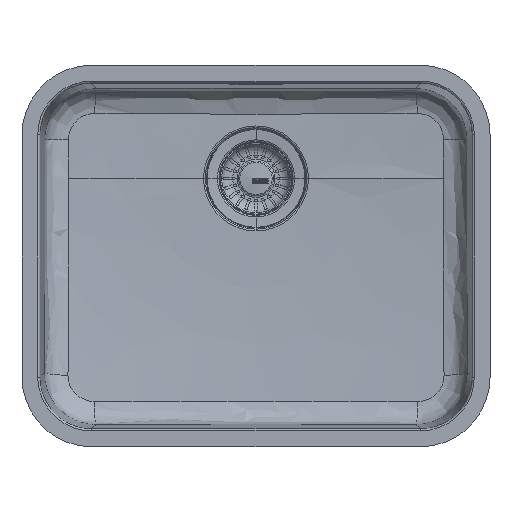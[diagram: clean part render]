
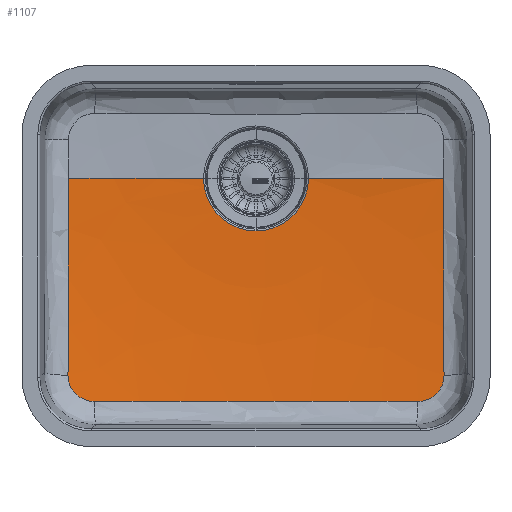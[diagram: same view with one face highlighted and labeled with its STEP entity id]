
A CAD part, top view. The second image highlights one B-rep face of the part: STEP entity #1107.
In plain terms, the highlighted free-form (B-spline) face has degree [2, 2] with [3, 5] control points.
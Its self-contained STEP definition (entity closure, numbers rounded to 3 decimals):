
#63=(
BOUNDED_CURVE()
B_SPLINE_CURVE(2,(#42409,#42410,#42411),.UNSPECIFIED.,.F.,.F.)
B_SPLINE_CURVE_WITH_KNOTS((3,3),(154.206,374.877),
 .UNSPECIFIED.)
CURVE()
GEOMETRIC_REPRESENTATION_ITEM()
RATIONAL_B_SPLINE_CURVE((1.,0.999,1.))
REPRESENTATION_ITEM('')
);
#1107=ADVANCED_FACE('',(#2068),#16771,.T.);
#2068=FACE_OUTER_BOUND('',#3095,.T.);
#3095=EDGE_LOOP('',(#8354,#8355,#8356,#8357,#8358,#8359,#8360,#8361));
#8354=ORIENTED_EDGE('',*,*,#11038,.F.);
#8355=ORIENTED_EDGE('',*,*,#11036,.F.);
#8356=ORIENTED_EDGE('',*,*,#11032,.F.);
#8357=ORIENTED_EDGE('',*,*,#11030,.F.);
#8358=ORIENTED_EDGE('',*,*,#11026,.F.);
#8359=ORIENTED_EDGE('',*,*,#11042,.T.);
#8360=ORIENTED_EDGE('',*,*,#11062,.F.);
#8361=ORIENTED_EDGE('',*,*,#11078,.F.);
#11026=EDGE_CURVE('',#16603,#16602,#12685,.T.);
#11030=EDGE_CURVE('',#16602,#16604,#12687,.T.);
#11032=EDGE_CURVE('',#16604,#16606,#12689,.T.);
#11036=EDGE_CURVE('',#16606,#16608,#12691,.T.);
#11038=EDGE_CURVE('',#16608,#16621,#12693,.T.);
#11042=EDGE_CURVE('',#16603,#16610,#63,.T.);
#11062=EDGE_CURVE('',#16615,#16610,#13749,.T.);
#11078=EDGE_CURVE('',#16621,#16615,#13761,.T.);
#12685=B_SPLINE_CURVE_WITH_KNOTS('',3,(#42331,#42332,#42333,#42334,#42335),
 .UNSPECIFIED.,.F.,.F.,(4,1,4),(0.,71.982,227.84),
 .UNSPECIFIED.);
#12687=B_SPLINE_CURVE_WITH_KNOTS('',3,(#42349,#42350,#42351,#42352,#42353,
#42354,#42355),.UNSPECIFIED.,.F.,.F.,(4,1,1,1,4),(0.,13.931,27.862,
41.793,48.758),.UNSPECIFIED.);
#12689=B_SPLINE_CURVE_WITH_KNOTS('',3,(#42362,#42363,#42364,#42365,#42366,
#42367),.UNSPECIFIED.,.F.,.F.,(4,1,1,4),(0.,106.998,213.996,
374.493),.UNSPECIFIED.);
#12691=B_SPLINE_CURVE_WITH_KNOTS('',3,(#42381,#42382,#42383,#42384,#42385,
#42386,#42387),.UNSPECIFIED.,.F.,.F.,(4,1,1,1,4),(0.,6.965,20.896,
34.827,48.758),.UNSPECIFIED.);
#12693=B_SPLINE_CURVE_WITH_KNOTS('',3,(#42394,#42395,#42396,#42397,#42398,
#42399),.UNSPECIFIED.,.F.,.F.,(4,1,1,4),(0.,116.861,194.769,
227.777),.UNSPECIFIED.);
#13749=TRIMMED_CURVE($,#14805,(#42464),(#42465),.T.,.CARTESIAN.);
#13761=TRIMMED_CURVE($,#14817,(#42510),(#42511),.T.,.CARTESIAN.);
#14805=CIRCLE('',#19474,60.66);
#14817=CIRCLE('',#19486,2000.);
#16602=VERTEX_POINT('',#41766);
#16603=VERTEX_POINT('',#41767);
#16604=VERTEX_POINT('',#41768);
#16606=VERTEX_POINT('',#41770);
#16608=VERTEX_POINT('',#41772);
#16610=VERTEX_POINT('',#41774);
#16615=VERTEX_POINT('',#41779);
#16621=VERTEX_POINT('',#41785);
#16771=(
BOUNDED_SURFACE()
B_SPLINE_SURFACE(2,2,((#41542,#41543,#41544,#41545,#41546),(#41547,#41548,
#41549,#41550,#41551),(#41552,#41553,#41554,#41555,#41556)),
 .UNSPECIFIED.,.F.,.F.,.F.)
B_SPLINE_SURFACE_WITH_KNOTS((3,3),(3,2,3),(0.,374.877),(0.,650.307,
1300.614),.UNSPECIFIED.)
GEOMETRIC_REPRESENTATION_ITEM()
RATIONAL_B_SPLINE_SURFACE(((1.,0.707,1.,0.707,1.),
(0.998,0.706,0.998,0.706,
0.998),(1.,0.707,1.,0.707,1.)))
REPRESENTATION_ITEM('')
SURFACE()
);
#19474=AXIS2_PLACEMENT_3D($,#42463,#22358,#22359);
#19486=AXIS2_PLACEMENT_3D($,#42509,#22382,#22383);
#22358=DIRECTION('',(0.,0.,1.));
#22359=DIRECTION('',(-1.,0.,0.));
#22382=DIRECTION('',(0.,-1.,0.));
#22383=DIRECTION('',(-0.078,0.,-0.997));
#41542=CARTESIAN_POINT('',(325.153,57.,-159.434));
#41543=CARTESIAN_POINT('',(325.153,-268.153,-159.434));
#41544=CARTESIAN_POINT('',(0.,-268.153,-159.434));
#41545=CARTESIAN_POINT('',(-325.153,-268.153,-159.434));
#41546=CARTESIAN_POINT('',(-325.153,57.,-159.434));
#41547=CARTESIAN_POINT('',(193.49,57.,-177.));
#41548=CARTESIAN_POINT('',(193.49,-136.49,-177.));
#41549=CARTESIAN_POINT('',(0.,-136.49,-177.));
#41550=CARTESIAN_POINT('',(-193.49,-136.49,-177.));
#41551=CARTESIAN_POINT('',(-193.49,57.,-177.));
#41552=CARTESIAN_POINT('',(60.66,57.,-177.));
#41553=CARTESIAN_POINT('',(60.66,-3.66,-177.));
#41554=CARTESIAN_POINT('',(0.,-3.66,-177.));
#41555=CARTESIAN_POINT('',(-60.66,-3.66,-177.));
#41556=CARTESIAN_POINT('',(-60.66,57.,-177.));
#41766=CARTESIAN_POINT('',(217.341,-170.487,-160.81));
#41767=CARTESIAN_POINT('',(216.662,57.,-170.913));
#41768=CARTESIAN_POINT('',(187.024,-200.861,-160.304));
#41770=CARTESIAN_POINT('',(-187.024,-200.861,-160.304));
#41772=CARTESIAN_POINT('',(-217.341,-170.487,-160.81));
#41774=CARTESIAN_POINT('',(60.66,57.,-177.));
#41779=CARTESIAN_POINT('',(-60.66,57.,-177.));
#41785=CARTESIAN_POINT('',(-216.659,57.,-170.907));
#42331=CARTESIAN_POINT('',(216.662,57.,-170.913));
#42332=CARTESIAN_POINT('',(216.663,33.043,-170.916));
#42333=CARTESIAN_POINT('',(216.755,-42.786,-169.922));
#42334=CARTESIAN_POINT('',(217.077,-118.689,-165.628));
#42335=CARTESIAN_POINT('',(217.341,-170.487,-160.81));
#42349=CARTESIAN_POINT('',(217.341,-170.487,-160.81));
#42350=CARTESIAN_POINT('',(217.365,-175.026,-160.388));
#42351=CARTESIAN_POINT('',(215.355,-184.126,-159.694));
#42352=CARTESIAN_POINT('',(206.654,-195.114,-159.335));
#42353=CARTESIAN_POINT('',(196.117,-200.143,-159.675));
#42354=CARTESIAN_POINT('',(189.295,-200.871,-160.13));
#42355=CARTESIAN_POINT('',(187.024,-200.861,-160.304));
#42362=CARTESIAN_POINT('',(187.024,-200.861,-160.304));
#42363=CARTESIAN_POINT('',(151.435,-200.705,-163.038));
#42364=CARTESIAN_POINT('',(80.17,-200.452,-166.807));
#42365=CARTESIAN_POINT('',(-44.532,-200.35,-168.071));
#42366=CARTESIAN_POINT('',(-133.641,-200.626,-164.404));
#42367=CARTESIAN_POINT('',(-187.024,-200.861,-160.304));
#42381=CARTESIAN_POINT('',(-187.024,-200.861,-160.304));
#42382=CARTESIAN_POINT('',(-189.295,-200.871,-160.13));
#42383=CARTESIAN_POINT('',(-196.118,-200.143,-159.675));
#42384=CARTESIAN_POINT('',(-206.655,-195.114,-159.335));
#42385=CARTESIAN_POINT('',(-215.356,-184.125,-159.694));
#42386=CARTESIAN_POINT('',(-217.365,-175.026,-160.388));
#42387=CARTESIAN_POINT('',(-217.341,-170.487,-160.81));
#42394=CARTESIAN_POINT('',(-217.341,-170.487,-160.81));
#42395=CARTESIAN_POINT('',(-217.143,-131.639,-164.424));
#42396=CARTESIAN_POINT('',(-216.861,-66.767,-168.695));
#42397=CARTESIAN_POINT('',(-216.679,9.086,-170.683));
#42398=CARTESIAN_POINT('',(-216.659,46.011,-170.907));
#42399=CARTESIAN_POINT('',(-216.659,57.,-170.907));
#42409=CARTESIAN_POINT('',(216.662,57.,-170.913));
#42410=CARTESIAN_POINT('',(138.78,57.,-177.003));
#42411=CARTESIAN_POINT('',(60.66,57.,-177.));
#42463=CARTESIAN_POINT('',(0.,57.,-177.));
#42464=CARTESIAN_POINT('',(-60.66,57.,-177.));
#42465=CARTESIAN_POINT('',(60.66,57.,-177.));
#42509=CARTESIAN_POINT('',(-60.66,57.,1823.));
#42510=CARTESIAN_POINT('',(-216.659,57.,-170.907));
#42511=CARTESIAN_POINT('',(-60.66,57.,-177.));
